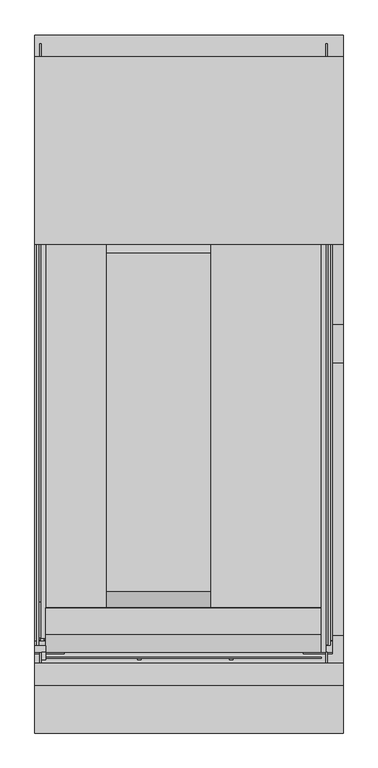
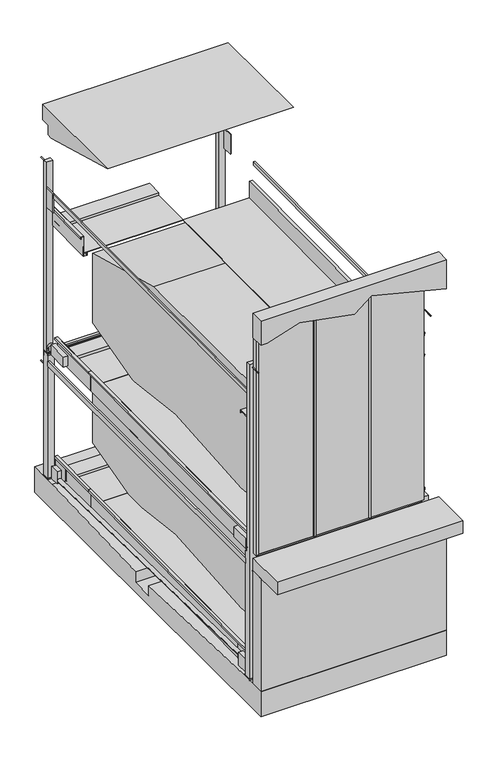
"""IFC4 building model written with IfcOpenShell, lengths in millimetres: proxy geometry, TrendVario_6300 : TrendVario_6300."""

from ifc_helpers import new_model, si_unit, point, frame, frame_2d, origin, origin_with_axes, place, context, project, spatial, polyline, circle_curve, trimmed, segment, composite_curve, outline, extrude, faceted_brep, source, transform, mapped, element, save
from ifc_brep_helpers import plane_surface, cylinder_surface, advanced_brep


def generic_models_decd68fa(model_context):
    return source(origin(), model_context, "Body", "SolidModel", [
        extrude(outline(composite_curve([segment(trimmed(circle_curve(frame_2d((-273.0, 50.2890841)), 6.0), [point((-273.0, 44.2890841))], [point((-273.0, 56.2890841))], False, "CARTESIAN"), True, "CONTINUOUS"), segment(trimmed(circle_curve(frame_2d((-273.0, 50.2890841)), 6.0), [point((-273.0, 56.2890841))], [point((-273.0, 44.2890841))], False, "CARTESIAN"), True, "CONTINUOUS")], self_intersect=False)), frame((0.0, 5472.5930875, 0.0), z_axis=(0.0, 1.0, 0.0), x_axis=(0.0, 0.0, 1.0)), (0.0, 0.0, 1.0), 150.0),
        extrude(outline(composite_curve([segment(trimmed(circle_curve(frame_2d((-273.0, 2650.0)), 6.0), [point((-267.0, 2650.0))], [point((-279.0, 2650.0))], False, "CARTESIAN"), True, "CONTINUOUS"), segment(trimmed(circle_curve(frame_2d((-273.0, 2650.0)), 6.0), [point((-279.0, 2650.0))], [point((-267.0, 2650.0))], False, "CARTESIAN"), True, "CONTINUOUS")], self_intersect=False)), frame((0.0, 5469.6007019, 0.0), z_axis=(0.0, 1.0, 0.0), x_axis=(0.0, 0.0, 1.0)), (0.0, 0.0, 1.0), 150.0),
        extrude(outline(composite_curve([segment(trimmed(circle_curve(frame_2d((-273.0, 2650.0)), 6.0), [point((-267.0, 2650.0))], [point((-279.0, 2650.0))], False, "CARTESIAN"), True, "CONTINUOUS"), segment(trimmed(circle_curve(frame_2d((-273.0, 2650.0)), 6.0), [point((-279.0, 2650.0))], [point((-267.0, 2650.0))], False, "CARTESIAN"), True, "CONTINUOUS")], self_intersect=False)), frame((0.0, -50.0, 0.0), z_axis=(0.0, 1.0, 0.0), x_axis=(0.0, 0.0, 1.0)), (0.0, 0.0, 1.0), 150.0),
        extrude(outline(composite_curve([segment(trimmed(circle_curve(frame_2d((-273.0, 50.0)), 6.0), [point((-273.0, 56.0))], [point((-273.0, 44.0))], False, "CARTESIAN"), True, "CONTINUOUS"), segment(trimmed(circle_curve(frame_2d((-273.0, 50.0)), 6.0), [point((-273.0, 44.0))], [point((-273.0, 56.0))], False, "CARTESIAN"), True, "CONTINUOUS")], self_intersect=False)), frame((0.0, -50.0, 0.0), z_axis=(0.0, 1.0, 0.0), x_axis=(0.0, 0.0, 1.0)), (0.0, 0.0, 1.0), 150.0),
        extrude(outline(composite_curve([segment(trimmed(circle_curve(frame_2d((145.0, 150.0)), 6.0), [point((139.0, 150.0))], [point((151.0, 150.0))], False, "CARTESIAN"), True, "CONTINUOUS"), segment(trimmed(circle_curve(frame_2d((145.0, 150.0)), 6.0), [point((151.0, 150.0))], [point((139.0, 150.0))], False, "CARTESIAN"), True, "CONTINUOUS")], self_intersect=False)), frame((0.0, 0.0, -2150.0), z_axis=(0.0, 0.0, 1.0), x_axis=(1.0, 0.0, 0.0)), (0.0, 0.0, 1.0), 150.0),
        extrude(outline(composite_curve([segment(trimmed(circle_curve(frame_2d((2555.0, 150.0)), 6.0), [point((2549.0, 150.0))], [point((2561.0, 150.0))], False, "CARTESIAN"), True, "CONTINUOUS"), segment(trimmed(circle_curve(frame_2d((2555.0, 150.0)), 6.0), [point((2561.0, 150.0))], [point((2549.0, 150.0))], False, "CARTESIAN"), True, "CONTINUOUS")], self_intersect=False)), frame((0.0, 0.0, -2150.0), z_axis=(0.0, 0.0, 1.0), x_axis=(1.0, 0.0, 0.0)), (0.0, 0.0, 1.0), 150.0),
        extrude(outline(composite_curve([segment(trimmed(circle_curve(frame_2d((2555.0, 5422.5930852)), 6.0), [point((2549.0, 5422.5930852))], [point((2561.0, 5422.5930852))], False, "CARTESIAN"), True, "CONTINUOUS"), segment(trimmed(circle_curve(frame_2d((2555.0, 5422.5930852)), 6.0), [point((2561.0, 5422.5930852))], [point((2549.0, 5422.5930852))], False, "CARTESIAN"), True, "CONTINUOUS")], self_intersect=False)), frame((0.0, 0.0, -2150.0), z_axis=(0.0, 0.0, 1.0), x_axis=(1.0, 0.0, 0.0)), (0.0, 0.0, 1.0), 150.0),
        extrude(outline(polyline([(320.0, 0.0), (3.0, 0.0), (3.0, -49.0), (49.9999999, -49.0), (49.9999999, -89.0), (47.0, -89.0), (47.0, -52.0), (0.0, -52.0), (0.0, 3.0), (317.0, 3.0), (317.0, 40.0), (290.0, 40.0), (290.0, 43.0), (320.0, 43.0), (320.0, 0.0)])), frame((2600.0, 237.7412679, -1960.4094164), z_axis=(0.0, 0.9999619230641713, 0.008726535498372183), x_axis=(0.0, -0.008726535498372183, 0.9999619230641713)), (0.0, 0.0, 1.0), 4178.0),
        extrude(outline(polyline([(1941.867435, 0.0), (1941.867435, -1000.0), (-1962.132565, -1000.0), (-1962.132565, 0.0), (1941.867435, 0.0)])), frame((1600.0, 2473.3523611, -1890.89763), z_axis=(0.0, -0.008726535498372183, 0.9999619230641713), x_axis=(0.0, 0.9999619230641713, 0.008726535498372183)), (0.0, 0.0, 1.0), 8.0),
        extrude(outline(polyline([(0.0, -136.0000001), (0.0, 0.0), (67.0, 0.0), (67.0, -136.0000001), (0.0, -136.0000001)])), frame((20.0, 5291.8106638, -1946.3080138), z_axis=(0.0, -0.008726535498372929, 0.9999619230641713), x_axis=(1.0, 0.0, 0.0)), (0.0, 0.0, 1.0), 195.0),
        extrude(outline(polyline([(5313.4099527, -1671.1090481), (5316.1588114, -1986.0970538), (5181.1639517, -1987.2751361), (5044.9910098, -1853.4583588), (5042.809376, -1603.467878), (5282.8002375, -1601.3735095), (5283.411095, -1671.3708441), (5313.4099527, -1671.1090481)])), frame((87.0, 0.0, 0.0), z_axis=(1.0, 0.0, 0.0), x_axis=(0.0, 1.0, 0.0)), (0.0, 0.0, 1.0), 10.0),
        extrude(outline(polyline([(0.0, -1500.0), (0.0, 0.0), (870.0, 0.0), (870.0, -1500.0), (0.0, -1500.0)])), frame((100.0, 4415.1458963, -1873.955505), z_axis=(0.0, -0.008726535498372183, 0.9999619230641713), x_axis=(0.0, 0.9999619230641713, 0.008726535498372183)), (0.0, 0.0, 1.0), 8.0),
        extrude(outline(polyline([(5046.6680519, -1816.4423146), (5284.6589896, -1814.3653991), (5285.0429571, -1858.3637238), (5282.0430713, -1858.3899034), (5281.6852834, -1817.3914645), (5049.6941172, -1819.4160207), (5050.0519052, -1860.4144596), (5047.0520194, -1860.4406392), (5046.6680519, -1816.4423146)])), frame((100.0, 0.0, 0.0), z_axis=(1.0, 0.0, 0.0), x_axis=(0.0, 1.0, 0.0)), (0.0, 0.0, 1.0), 1500.0),
        extrude(outline(polyline([(320.0, 0.0), (320.0, -43.0), (290.0, -43.0), (290.0, -40.0), (317.0, -40.0), (317.0, -3.0), (0.0, -3.0), (0.0, 52.0), (47.0, 52.0), (47.0, 89.0), (50.0, 89.0), (50.0, 49.0), (3.0, 49.0), (3.0, 0.0), (320.0, 0.0)])), frame((100.0, 4415.5822231, -1923.9536012), z_axis=(0.0, 0.9999619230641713, 0.008726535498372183), x_axis=(0.0, -0.008726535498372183, 0.9999619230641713)), (0.0, 0.0, 1.0), 870.0),
        extrude(outline(polyline([(320.0, 0.0), (3.0, 0.0), (3.0, -49.0), (49.9999999, -49.0), (49.9999999, -89.0), (47.0, -89.0), (47.0, -52.0), (0.0, -52.0), (0.0, 3.0), (317.0, 3.0), (317.0, 40.0), (290.0, 40.0), (290.0, 43.0), (320.0, 43.0), (320.0, 0.0)])), frame((2600.0, 232.7875414, -73.2083418), z_axis=(0.0, 0.9999619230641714, 0.008726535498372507), x_axis=(0.0, -0.008726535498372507, 0.9999619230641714)), (0.0, 0.0, 1.0), 4178.0),
        extrude(outline(polyline([(1941.867435, 0.0), (1941.867435, -1000.0), (-1962.132565, -1000.0), (-1962.132565, 0.0), (1941.867435, 0.0)])), frame((1600.0, 2468.3986345, -3.6965555), z_axis=(0.0, -0.008726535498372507, 0.9999619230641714), x_axis=(0.0, 0.9999619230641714, 0.008726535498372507)), (0.0, 0.0, 1.0), 8.0),
        extrude(outline(polyline([(0.0, -1500.0), (0.0, 0.0), (870.0, 0.0), (870.0, -1500.0), (0.0, -1500.0)])), frame((100.0, 4409.6919355, 13.2448545), z_axis=(0.0, -0.008726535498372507, 0.9999619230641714), x_axis=(0.0, 0.9999619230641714, 0.008726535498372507)), (0.0, 0.0, 1.0), 8.0),
        extrude(outline(polyline([(5041.2140911, 70.758045), (5279.2050288, 72.8349604), (5279.5889963, 28.8366358), (5276.5891105, 28.8104562), (5276.2313226, 69.808895), (5044.2401564, 67.7843388), (5044.5979444, 26.7859), (5041.5980586, 26.7597203), (5041.2140911, 70.758045)])), frame((100.0, 0.0, 0.0), z_axis=(1.0, 0.0, 0.0), x_axis=(0.0, 1.0, 0.0)), (0.0, 0.0, 1.0), 1500.0),
        extrude(outline(polyline([(320.0, 0.0), (320.0, -43.0), (290.0, -43.0), (290.0, -40.0), (317.0, -40.0), (317.0, -3.0), (0.0, -3.0), (0.0, 52.0), (47.0, 52.0), (47.0, 89.0), (49.9999999, 89.0), (49.9999999, 49.0), (2.9999999, 49.0), (2.9999999, 0.0), (320.0, 0.0)])), frame((100.0, 4410.1282623, -36.7532416), z_axis=(0.0, 0.9999619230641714, 0.008726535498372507), x_axis=(0.0, -0.008726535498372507, 0.9999619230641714)), (0.0, 0.0, 1.0), 870.0),
        extrude(outline(composite_curve([segment(trimmed(circle_curve(frame_2d((145.0, 5422.5930852)), 6.0), [point((139.0, 5422.5930852))], [point((151.0, 5422.5930852))], False, "CARTESIAN"), True, "CONTINUOUS"), segment(trimmed(circle_curve(frame_2d((145.0, 5422.5930852)), 6.0), [point((151.0, 5422.5930852))], [point((139.0, 5422.5930852))], False, "CARTESIAN"), True, "CONTINUOUS")], self_intersect=False)), frame((0.0, 0.0, -2150.0), z_axis=(0.0, 0.0, 1.0), x_axis=(1.0, 0.0, 0.0)), (0.0, 0.0, 1.0), 150.0),
        extrude(outline(composite_curve([segment(trimmed(circle_curve(frame_2d((2965.0, 2650.0)), 6.0), [point((2965.0, 2644.0))], [point((2965.0, 2656.0))], False, "CARTESIAN"), True, "CONTINUOUS"), segment(trimmed(circle_curve(frame_2d((2965.0, 2650.0)), 6.0), [point((2965.0, 2656.0))], [point((2965.0, 2644.0))], False, "CARTESIAN"), True, "CONTINUOUS")], self_intersect=False)), frame((0.0, -50.0, 0.0), z_axis=(0.0, 1.0, 0.0), x_axis=(0.0, 0.0, 1.0)), (0.0, 0.0, 1.0), 150.0),
        extrude(outline(composite_curve([segment(trimmed(circle_curve(frame_2d((2965.0, 50.0)), 6.0), [point((2965.0, 44.0))], [point((2965.0, 56.0))], False, "CARTESIAN"), True, "CONTINUOUS"), segment(trimmed(circle_curve(frame_2d((2965.0, 50.0)), 6.0), [point((2965.0, 56.0))], [point((2965.0, 44.0))], False, "CARTESIAN"), True, "CONTINUOUS")], self_intersect=False)), frame((0.0, -50.0, 0.0), z_axis=(0.0, 1.0, 0.0), x_axis=(0.0, 0.0, 1.0)), (0.0, 0.0, 1.0), 150.0),
        extrude(outline(composite_curve([segment(trimmed(circle_curve(frame_2d((2965.0, 50.0)), 6.0), [point((2965.0, 44.0))], [point((2965.0, 56.0))], False, "CARTESIAN"), True, "CONTINUOUS"), segment(trimmed(circle_curve(frame_2d((2965.0, 50.0)), 6.0), [point((2965.0, 56.0))], [point((2965.0, 44.0))], False, "CARTESIAN"), True, "CONTINUOUS")], self_intersect=False)), frame((0.0, 5469.5778576, 0.0), z_axis=(0.0, 1.0, 0.0), x_axis=(0.0, 0.0, 1.0)), (0.0, 0.0, 1.0), 150.0),
        extrude(outline(composite_curve([segment(trimmed(circle_curve(frame_2d((2965.0, 2650.0)), 6.0), [point((2965.0, 2644.0))], [point((2965.0, 2656.0))], False, "CARTESIAN"), True, "CONTINUOUS"), segment(trimmed(circle_curve(frame_2d((2965.0, 2650.0)), 6.0), [point((2965.0, 2656.0))], [point((2965.0, 2644.0))], False, "CARTESIAN"), True, "CONTINUOUS")], self_intersect=False)), frame((0.0, 5469.6007019, 0.0), z_axis=(0.0, 1.0, 0.0), x_axis=(0.0, 0.0, 1.0)), (0.0, 0.0, 1.0), 150.0),
        extrude(outline(polyline([(2133.867435, 0.0), (2133.867435, -1000.0), (-1962.132565, -1000.0), (-1962.132565, 0.0), (2133.867435, 0.0)])), frame((1600.0, 2468.3986345, 2016.3034445), z_axis=(0.0, -0.008726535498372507, 0.9999619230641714), x_axis=(0.0, 0.9999619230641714, 0.008726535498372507)), (0.0, 0.0, 1.0), 8.0),
        extrude(outline(polyline([(0.0, -60.0), (0.0, 0.0), (4430.0, 0.0), (4430.0, -60.0), (0.0, -60.0)])), frame((2611.0, 171.9869847, 2038.264563), z_axis=(0.0, -0.008726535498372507, 0.9999619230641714), x_axis=(0.0, 0.9999619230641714, 0.008726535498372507)), (0.0, 0.0, 1.0), 100.0),
        extrude(outline(polyline([(0.0, -19.0), (0.0, 0.0), (4430.0, 0.0), (4430.0, -19.0), (0.0, -19.0)])), frame((2663.0, 167.9116926, 2505.246781), z_axis=(0.0, -0.008726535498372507, 0.9999619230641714), x_axis=(0.0, 0.9999619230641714, 0.008726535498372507)), (0.0, 0.0, 1.0), 56.0),
        faceted_brep([(2600.0, 4599.8286538, 2304.9144337), (2643.0, 4599.8286538, 2304.9144337), (2643.0, 4600.0904499, 2274.915576), (2640.0, 4600.0904499, 2274.915576), (2640.0, 4599.8548334, 2301.9145479), (2603.0, 4599.8548334, 2301.9145479), (2603.0, 4602.6211451, 1984.9266183), (2548.0, 4602.6211451, 1984.9266183), (2548.0, 4602.210998, 2031.9248287), (2511.0, 4602.210998, 2031.9248287), (2511.0, 4602.1848184, 2034.9247145), (2551.0, 4602.1848184, 2034.9247145), (2551.0, 4602.5949655, 1987.9265041), (2600.0, 4602.5949655, 1987.9265041), (2603.0, 102.7924914, 1945.6572086), (2603.0, 100.0261796, 2262.6451382), (2640.0, 100.0261796, 2262.6451382), (2640.0, 100.2617961, 2235.6461663), (2643.0, 100.2617961, 2235.6461663), (2643.0, 100.0, 2265.645024), (2600.0, 100.0, 2265.645024), (2600.0, 102.7924914, 1945.6572086), (2600.0, 202.7886837, 1946.5298621), (2548.0, 202.7886837, 1946.5298621), (2548.0, 202.3785365, 1993.5280725), (2511.0, 202.3785365, 1993.5280725), (2511.0, 202.3523569, 1996.5279583), (2551.0, 202.3523569, 1996.5279583), (2551.0, 202.7625041, 1949.5297479), (2600.0, 202.7625041, 1949.5297479)], [[[0, 1, 2, 3, 4, 5, 6, 7, 8, 9, 10, 11, 12, 13]], [[14, 15, 16, 17, 18, 19, 20, 21]], [[1, 0, 20, 19]], [[2, 1, 19, 18]], [[3, 2, 18, 17]], [[4, 3, 17, 16]], [[5, 4, 16, 15]], [[6, 5, 15, 14]], [[7, 6, 14, 21, 22, 23]], [[8, 7, 23, 24]], [[9, 8, 24, 25]], [[10, 9, 25, 26]], [[11, 10, 26, 27]], [[12, 11, 27, 28]], [[13, 12, 28, 29]], [[0, 13, 29, 22, 21, 20]], [[22, 29, 28, 27, 26, 25, 24, 23]]]),
        extrude(outline(polyline([(0.0, -1500.0), (0.0, 0.0), (869.9999999, 0.0), (869.9999999, -1500.0), (0.0, -1500.0)])), frame((100.0, 4602.1898877, 2034.9247587), z_axis=(0.0, -0.008726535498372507, 0.9999619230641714), x_axis=(0.0, 0.9999619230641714, 0.008726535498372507)), (0.0, 0.0, 1.0), 8.0),
        extrude(outline(polyline([(5233.7120432, 2092.4379491), (5471.7029809, 2094.5148646), (5472.0869485, 2050.51654), (5469.0870627, 2050.4903604), (5468.7292747, 2091.4887992), (5236.7381086, 2089.464243), (5237.0958965, 2048.4658041), (5234.0960108, 2048.4396245), (5233.7120432, 2092.4379491)])), frame((100.0, 0.0, 0.0), z_axis=(1.0, 0.0, 0.0), x_axis=(0.0, 1.0, 0.0)), (0.0, 0.0, 1.0), 1500.0),
        extrude(outline(polyline([(319.9999999, 0.0), (319.9999999, -43.0), (289.9999999, -43.0), (289.9999999, -40.0), (317.0, -40.0), (317.0, -3.0), (0.0, -3.0), (0.0, 52.0), (46.9999999, 52.0), (46.9999999, 89.0), (49.9999999, 89.0), (49.9999999, 49.0), (2.9999999, 49.0), (2.9999999, 0.0), (319.9999999, 0.0)])), frame((100.0, 4602.6262144, 1984.9266626), z_axis=(0.0, 0.9999619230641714, 0.008726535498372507), x_axis=(0.0, -0.008726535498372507, 0.9999619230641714)), (0.0, 0.0, 1.0), 870.0),
        extrude(outline(polyline([(5699.992384, -2000.0), (5699.992384, -2400.0), (-200.0, -2400.0), (-200.0, -2000.0), (250.0, -2000.0), (2725.0057083, -2086.4291038), (2725.0057083, -2247.5791163), (3075.0057083, -2247.5791163), (3075.0057083, -2075.9522084), (5249.9923858, -2000.0), (5699.992384, -2000.0)])), frame((0.0, 0.0, 0.0), z_axis=(1.0, 0.0, 0.0), x_axis=(0.0, 1.0, 0.0)), (0.0, 0.0, 1.0), 2799.0),
        extrude(outline(polyline([(0.0, 5369.5930875), (30.0, 5369.5930875), (30.0, 200.0), (0.0, 200.0), (0.0, 5369.5930875)])), frame((0.0, 0.0, -200.0), z_axis=(0.0, 0.0, 1.0), x_axis=(1.0, 0.0, 0.0)), (0.0, 0.0, 1.0), 80.0),
        extrude(outline(polyline([(264.0, 210.0), (264.0, 90.0), (0.0, 90.0), (0.0, 210.0), (264.0, 210.0)])), frame((0.0, 0.0, -2000.0), z_axis=(0.0, 0.0, 1.0), x_axis=(1.0, 0.0, 0.0)), (0.0, 0.0, 1.0), 18.0),
        extrude(outline(polyline([(264.0, 5482.5930875), (264.0, 5359.5930875), (0.0, 5359.5930875), (0.0, 5482.5930875), (264.0, 5482.5930875)])), frame((0.0, 0.0, -2000.0), z_axis=(0.0, 0.0, 1.0), x_axis=(1.0, 0.0, 0.0)), (0.0, 0.0, 1.0), 18.0),
        extrude(outline(polyline([(2436.3569556, 5479.6007019), (2700.3569556, 5479.6007019), (2700.3569556, 5359.6007019), (2436.3569556, 5359.6007019), (2436.3569556, 5479.6007019)])), frame((0.0, 0.0, -2000.0), z_axis=(0.0, 0.0, 1.0), x_axis=(1.0, 0.0, 0.0)), (0.0, 0.0, 1.0), 18.0),
        extrude(outline(polyline([(2436.0, 90.0), (2436.0, 210.0), (2700.0, 210.0), (2700.0, 90.0), (2436.0, 90.0)])), frame((0.0, 0.0, -2000.0), z_axis=(0.0, 0.0, 1.0), x_axis=(1.0, 0.0, 0.0)), (0.0, 0.0, 1.0), 18.0),
        extrude(outline(composite_curve([segment(trimmed(circle_curve(frame_2d((-34.8939913, -3.2601796)), 30.0), [point((-64.8939913, -3.2601796))], [point((-4.8939913, -3.2601796))], False, "CARTESIAN"), True, "CONTINUOUS"), segment(trimmed(circle_curve(frame_2d((-34.8939913, -3.2601796)), 30.0), [point((-4.8939913, -3.2601796))], [point((-64.8939913, -3.2601796))], False, "CARTESIAN"), True, "CONTINUOUS")], self_intersect=False)), frame((20.0, 5155.4453642, -1905.0422399), z_axis=(0.0, -0.9997806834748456, 0.02094241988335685), x_axis=(-1.0, 0.0, 0.0)), (0.0, 0.0, 1.0), 4742.7442584),
        extrude(outline(composite_curve([segment(trimmed(circle_curve(frame_2d((39.6709454, 48.2295862)), 30.0), [point((9.6709454, 48.2295862))], [point((69.6709454, 48.2295862))], False, "CARTESIAN"), True, "CONTINUOUS"), segment(trimmed(circle_curve(frame_2d((39.6709454, 48.2295862)), 30.0), [point((69.6709454, 48.2295862))], [point((9.6709454, 48.2295862))], False, "CARTESIAN"), True, "CONTINUOUS")], self_intersect=False)), frame((2603.0, 5155.7604458, -1941.1470144), z_axis=(0.0, -0.9997806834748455, 0.020942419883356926), x_axis=(1.0, 0.0, 0.0)), (0.0, 0.0, 1.0), 4743.0440414),
        faceted_brep([(2670.0, 210.0, -120.0), (2670.0, 210.0, -200.0), (2700.0, 210.0, -200.0), (2700.0, 210.0, -120.0), (2700.0, 5359.6007019, -120.0), (2700.0, 5359.6007019, -200.0), (2673.0, 5359.6007019, -200.0), (2673.0, 5359.6007019, -120.0), (2670.0, 232.7875088, -120.0), (2670.0, 232.7875088, -200.0), (2670.0, 5357.5889979, -120.0), (2670.0, 5336.1530625, -200.0), (2670.0, 254.2234442, -200.0), (2673.0, 232.7875088, -200.0), (2673.0, 254.2234442, -200.0), (2673.0, 5336.1530625, -200.0), (2673.0, 5357.5889979, -120.0), (2673.0, 232.7875088, -120.0)], [[[0, 1, 2, 3]], [[4, 5, 6, 7]], [[1, 0, 8, 9]], [[10, 11, 12, 8]], [[2, 1, 9, 13, 14, 12, 11, 15, 6, 5]], [[3, 2, 5, 4]], [[0, 3, 4, 7, 16, 10, 8]], [[15, 16, 7, 6]], [[16, 15, 11, 10]], [[17, 14, 13]], [[8, 17, 13, 9]], [[17, 8, 12, 14]]]),
        extrude(outline(polyline([(2700.0, 5369.6007019), (2600.0, 5369.6007019), (2600.0, 5469.6007019), (2700.0, 5469.6007019), (2700.0, 5369.6007019)])), frame((0.0, 0.0, -2000.0), z_axis=(0.0, 0.0, 1.0), x_axis=(1.0, 0.0, 0.0)), (0.0, 0.0, 1.0), 2000.0),
        extrude(outline(polyline([(237.7566323, -1940.8501873), (236.1472757, -1756.4361785), (413.7566323, -1756.4361785), (413.7566323, -1939.3142585), (237.7566323, -1940.8501873)])), frame((2613.0, 0.0, 0.0), z_axis=(1.0, 0.0, 0.0), x_axis=(0.0, 1.0, 0.0)), (0.0, 0.0, 1.0), 70.0),
        extrude(outline(polyline([(237.7412679, -1960.4094164), (235.9626972, -1756.6053926), (413.7412679, -1756.6053926), (413.7412679, -1958.8734877), (237.7412679, -1960.4094164)])), frame((20.0, 0.0, 0.0), z_axis=(1.0, 0.0, 0.0), x_axis=(0.0, 1.0, 0.0)), (0.0, 0.0, 1.0), 70.0),
        extrude(outline(polyline([(0.0, -136.0000001), (0.0, 0.0), (67.0, 0.0), (67.0, -136.0000001), (0.0, -136.0000001)])), frame((2610.0, 5291.8106638, -1946.3080138), z_axis=(0.0, -0.008726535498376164, 0.9999619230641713), x_axis=(1.0, 0.0, 0.0)), (0.0, 0.0, 1.0), 195.0),
        extrude(outline(polyline([(2600.0, 200.0), (2700.0, 200.0), (2700.0, 100.0), (2600.0, 100.0), (2600.0, 200.0)])), frame((0.0, 0.0, -2000.0), z_axis=(0.0, 0.0, 1.0), x_axis=(1.0, 0.0, 0.0)), (0.0, 0.0, 1.0), 2000.0),
        extrude(outline(composite_curve([segment(polyline([(5320.048845, -585.9914336), (5320.048845, -1335.9999998), (5318.0564576, -1335.9999998), (5318.0564576, -1608.1402276), (4313.3699728, -1877.3451599)]), True, "CONTINUOUS"), segment(trimmed(circle_curve(frame_2d((4247.6299354, -1632.0)), 254.0), [point((4313.3699728, -1877.3451599))], [point((4224.7221662, -1884.9648871))], False, "CARTESIAN"), True, "CONTINUOUS"), segment(polyline([(4224.7221662, -1884.9648871), (3145.3807126, -1751.0), (1424.180165, -1884.6085614)]), True, "CONTINUOUS"), segment(trimmed(circle_curve(frame_2d((1397.6299354, -1632.0)), 254.0), [point((1424.180165, -1884.6085614))], [point((1340.4923675, -1879.4899965))], False, "CARTESIAN"), True, "CONTINUOUS"), segment(polyline([(1340.4923675, -1879.4899965), (320.456461, -1643.9961518), (320.456461, -689.5033287), (622.3673675, -136.0), (3720.0793025, -135.9999998), (5320.048845, -585.9914336)]), True, "CONTINUOUS")], self_intersect=False)), frame((650.0, 0.0, 0.0), z_axis=(1.0, 0.0, 0.0), x_axis=(0.0, 1.0, 0.0)), (0.0, 0.0, 1.0), 1900.0),
        extrude(outline(polyline([(2799.0, -200.0), (0.0, -200.0), (0.0, 0.0), (2799.0, 0.0), (2799.0, -200.0)])), frame((0.0, 0.0, -2000.0), z_axis=(0.0, 0.0, 1.0), x_axis=(1.0, 0.0, 0.0)), (0.0, 0.0, 1.0), 1800.0),
        faceted_brep([(100.0, 4412.2895056, -1603.966424), (100.0, 4415.0558174, -1920.9543536), (149.0, 4415.0558174, -1920.9543536), (149.0, 4414.6456702, -1873.9561432), (189.0, 4414.6456702, -1873.9561432), (189.0, 4414.6718498, -1876.956029), (152.0, 4414.6718498, -1876.956029), (152.0, 4415.081997, -1923.9542393), (97.0, 4415.081997, -1923.9542393), (97.0, 4412.3156852, -1606.9663097), (60.0, 4412.3156852, -1606.9663097), (60.0, 4412.5513017, -1633.9652817), (57.0, 4412.5513017, -1633.9652817), (57.0, 4412.2895056, -1603.966424), (100.0, 237.741276, -1960.4093395), (100.0, 234.9487847, -1640.4215242), (57.0, 234.9487847, -1640.4215242), (57.0, 235.2105807, -1670.4203818), (60.0, 235.2105807, -1670.4203818), (60.0, 234.9749643, -1643.4214099), (97.0, 234.9749643, -1643.4214099), (97.0, 237.741276, -1960.4093395), (100.0, 337.7374683, -1959.536686), (100.0, 337.7112887, -1956.5368002), (149.0, 337.7112887, -1956.5368002), (149.0, 337.3011416, -1909.5385898), (189.0, 337.3011416, -1909.5385898), (189.0, 337.3273212, -1912.5384756), (152.0, 337.3273212, -1912.5384756), (152.0, 337.7374683, -1959.536686)], [[[0, 1, 2, 3, 4, 5, 6, 7, 8, 9, 10, 11, 12, 13]], [[14, 15, 16, 17, 18, 19, 20, 21]], [[1, 0, 15, 14, 22, 23]], [[2, 1, 23, 24]], [[3, 2, 24, 25]], [[4, 3, 25, 26]], [[5, 4, 26, 27]], [[6, 5, 27, 28]], [[7, 6, 28, 29]], [[8, 7, 29, 22, 14, 21]], [[9, 8, 21, 20]], [[10, 9, 20, 19]], [[11, 10, 19, 18]], [[12, 11, 18, 17]], [[13, 12, 17, 16]], [[0, 13, 16, 15]], [[23, 22, 29, 28, 27, 26, 25, 24]]]),
        extrude(outline(polyline([(556.8174373, -1957.6248809), (237.7412679, -1960.4094164), (235.9626972, -1756.6053926), (322.913076, -1669.6550138), (556.8174373, -1667.6137613), (556.8174373, -1957.6248809)])), frame((90.0, 0.0, 0.0), z_axis=(1.0, 0.0, 0.0), x_axis=(0.0, 1.0, 0.0)), (0.0, 0.0, 1.0), 10.0),
        extrude(outline(polyline([(342.6444987, -1649.9235911), (556.8174373, -1648.0545322), (556.8174373, -1938.0656517), (237.7412679, -1940.8501873), (236.1319113, -1756.4361785), (342.6444987, -1649.9235911)])), frame((2603.0, 0.0, 0.0), z_axis=(1.0, 0.0, 0.0), x_axis=(0.0, 1.0, 0.0)), (0.0, 0.0, 1.0), 10.0),
        extrude(outline(polyline([(5282.7827844, -1599.3735857), (5283.411095, -1671.3708441), (5313.4099527, -1671.1090481), (5316.1588114, -1986.0970538), (5181.1639517, -1987.2751361), (5044.9910098, -1853.4583588), (5042.7919229, -1601.4679542), (5282.7827844, -1599.3735857)])), frame((2600.0, 0.0, 0.0), z_axis=(1.0, 0.0, 0.0), x_axis=(0.0, 1.0, 0.0)), (0.0, 0.0, 1.0), 10.0),
        extrude(outline(polyline([(2600.0, 511.2945081), (2600.0, 241.2945081), (100.0, 241.2945081), (100.0, 511.2945081), (2600.0, 511.2945081)])), frame((0.0, 0.0, -1888.4610204), z_axis=(0.0, 0.0, 1.0), x_axis=(1.0, 0.0, 0.0)), (0.0, 0.0, 1.0), 30.0),
        extrude(outline(polyline([(319.9999232, -43.0), (2.9999232, -43.0), (2.9999232, -92.0), (49.9999231, -92.0), (49.9999231, -132.0), (46.9999232, -132.0), (46.9999232, -95.0), (-7.68e-05, -95.0), (-7.68e-05, -40.0), (316.9999232, -40.0), (316.9999232, -3.0), (289.9999232, -3.0), (289.9999232, 0.0), (319.9999232, 0.0), (319.9999232, -43.0)])), frame((2643.0, 4415.5821906, -1923.9498742), z_axis=(0.0, 0.9999619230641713, 0.008726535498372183), x_axis=(0.0, -0.008726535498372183, 0.9999619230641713)), (0.0, 0.0, 1.0), 881.0149678),
        extrude(outline(polyline([(100.4126792, 0.0), (100.4126792, -870.5002127), (-899.5873208, -870.5002127), (-899.5873208, 0.0), (100.4126792, 0.0)])), frame((2499.5873208, 5285.1127694, -1866.3634191), z_axis=(0.0, -0.008726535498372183, 0.9999619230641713), x_axis=(1.0, 0.0, 0.0)), (0.0, 0.0, 1.0), 8.0),
        extrude(outline(polyline([(5287.3947785, -1814.337797), (5287.7787461, -1858.3361216), (5284.7788603, -1858.3623013), (5284.4210724, -1817.3638624), (5052.4299062, -1819.3884186), (5052.7876942, -1860.3868575), (5049.7878084, -1860.4130371), (5049.4038408, -1816.4147125), (5287.3947785, -1814.337797)])), frame((1600.0, 0.0, 0.0), z_axis=(1.0, 0.0, 0.0), x_axis=(0.0, 1.0, 0.0)), (0.0, 0.0, 1.0), 1000.0),
        extrude(outline(polyline([(2038.9337722, 0.0), (2038.9337722, -1500.0), (-1864.3763713, -1500.0), (-1864.3763713, 0.0), (2038.9337722, 0.0)])), frame((1600.0, 2550.3403211, -1890.2294167), z_axis=(0.0, -0.008726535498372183, 0.9999619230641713), x_axis=(0.0, -0.9999619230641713, -0.008726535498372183)), (0.0, 0.0, 1.0), 8.0),
        extrude(outline(polyline([(555.3027268, 0.3516465), (235.3027268, -2.4409511), (235.3027268, 157.5651414), (555.3027268, 160.3577391), (555.3027268, 0.3516465)])), frame((30.0, 0.0, 0.0), z_axis=(1.0, 0.0, 0.0), x_axis=(0.0, 1.0, 0.0)), (0.0, 0.0, 1.0), 70.0),
        extrude(outline(polyline([(5327.0564576, 0.3516465), (5007.0564576, -2.4409511), (5007.0564576, 157.5651414), (5327.0564576, 160.3577391), (5327.0564576, 0.3516465)])), frame((30.0, 0.0, 0.0), z_axis=(1.0, 0.0, 0.0), x_axis=(0.0, 1.0, 0.0)), (0.0, 0.0, 1.0), 70.0),
        extrude(outline(composite_curve([segment(trimmed(circle_curve(frame_2d((73.3516465, 66.0)), 50.0), [point((73.3516465, 16.0))], [point((73.3516465, 116.0))], False, "CARTESIAN"), True, "CONTINUOUS"), segment(trimmed(circle_curve(frame_2d((73.3516465, 66.0)), 50.0), [point((73.3516465, 116.0))], [point((73.3516465, 16.0))], False, "CARTESIAN"), True, "CONTINUOUS")], self_intersect=False)), frame((0.0, 165.3027268, 0.0), z_axis=(0.0, 1.0, 0.0), x_axis=(0.0, 0.0, 1.0)), (0.0, 0.0, 1.0), 35.0),
        extrude(outline(composite_curve([segment(trimmed(circle_curve(frame_2d((73.3516465, 66.0)), 15.0), [point((73.3516465, 51.0))], [point((73.3516465, 81.0))], False, "CARTESIAN"), True, "CONTINUOUS"), segment(trimmed(circle_curve(frame_2d((73.3516465, 66.0)), 15.0), [point((73.3516465, 81.0))], [point((73.3516465, 51.0))], False, "CARTESIAN"), True, "CONTINUOUS")], self_intersect=False)), frame((0.0, 200.3027268, 0.0), z_axis=(0.0, 1.0, 0.0), x_axis=(0.0, 0.0, 1.0)), (0.0, 0.0, 1.0), 35.0),
        extrude(outline(composite_curve([segment(trimmed(circle_curve(frame_2d((73.3516465, 66.0)), 50.0), [point((73.3516465, 16.0))], [point((73.3516465, 116.0))], False, "CARTESIAN"), True, "CONTINUOUS"), segment(trimmed(circle_curve(frame_2d((73.3516465, 66.0)), 50.0), [point((73.3516465, 116.0))], [point((73.3516465, 16.0))], False, "CARTESIAN"), True, "CONTINUOUS")], self_intersect=False)), frame((0.0, 5372.0564576, 0.0), z_axis=(0.0, 1.0, 0.0), x_axis=(0.0, 0.0, 1.0)), (0.0, 0.0, 1.0), 35.0),
        extrude(outline(composite_curve([segment(trimmed(circle_curve(frame_2d((73.3516465, 66.0)), 15.0), [point((73.3516465, 51.0))], [point((73.3516465, 81.0))], False, "CARTESIAN"), True, "CONTINUOUS"), segment(trimmed(circle_curve(frame_2d((73.3516465, 66.0)), 15.0), [point((73.3516465, 81.0))], [point((73.3516465, 51.0))], False, "CARTESIAN"), True, "CONTINUOUS")], self_intersect=False)), frame((0.0, 5327.0564576, 0.0), z_axis=(0.0, 1.0, 0.0), x_axis=(0.0, 0.0, 1.0)), (0.0, 0.0, 1.0), 45.0),
        faceted_brep([(100.0, 4407.3357384, 283.2383007), (100.0, 4410.1020502, -33.7496289), (149.0, 4410.1020502, -33.7496289), (149.0, 4409.691903, 13.2485815), (189.0, 4409.691903, 13.2485815), (189.0, 4409.7180826, 10.2486957), (152.0, 4409.7180826, 10.2486957), (152.0, 4410.1282298, -36.7495147), (97.0, 4410.1282298, -36.7495147), (97.0, 4407.361918, 280.2384149), (60.0, 4407.361918, 280.2384149), (60.0, 4407.5975345, 253.239443), (57.0, 4407.5975345, 253.239443), (57.0, 4407.3357384, 283.2383007), (100.0, 232.7875088, -73.2046149), (100.0, 229.9950175, 246.7832005), (57.0, 229.9950175, 246.7832005), (57.0, 230.2568135, 216.7843428), (60.0, 230.2568135, 216.7843428), (60.0, 230.0211971, 243.7833147), (97.0, 230.0211971, 243.7833147), (97.0, 232.7875088, -73.2046149), (100.0, 332.7837011, -72.3319613), (100.0, 332.7575215, -69.3320755), (149.0, 332.7575215, -69.3320755), (149.0, 332.3473744, -22.3338652), (189.0, 332.3473744, -22.3338652), (189.0, 332.373554, -25.3337509), (152.0, 332.373554, -25.3337509), (152.0, 332.7837011, -72.3319613)], [[[0, 1, 2, 3, 4, 5, 6, 7, 8, 9, 10, 11, 12, 13]], [[14, 15, 16, 17, 18, 19, 20, 21]], [[1, 0, 15, 14, 22, 23]], [[2, 1, 23, 24]], [[3, 2, 24, 25]], [[4, 3, 25, 26]], [[5, 4, 26, 27]], [[6, 5, 27, 28]], [[7, 6, 28, 29]], [[8, 7, 29, 22, 14, 21]], [[9, 8, 21, 20]], [[10, 9, 20, 19]], [[11, 10, 19, 18]], [[12, 11, 18, 17]], [[13, 12, 17, 16]], [[0, 13, 16, 15]], [[23, 22, 29, 28, 27, 26, 25, 24]]]),
        extrude(outline(polyline([(555.3027268, 0.3516465), (235.3027268, -2.4409511), (235.3027268, 157.5651414), (555.3027268, 160.3577391), (555.3027268, 0.3516465)])), frame((2600.0, 0.0, 0.0), z_axis=(1.0, 0.0, 0.0), x_axis=(0.0, 1.0, 0.0)), (0.0, 0.0, 1.0), 70.0),
        extrude(outline(composite_curve([segment(trimmed(circle_curve(frame_2d((73.3516465, 2635.0)), 50.0), [point((73.3516465, 2685.0))], [point((73.3516465, 2585.0))], False, "CARTESIAN"), True, "CONTINUOUS"), segment(trimmed(circle_curve(frame_2d((73.3516465, 2635.0)), 50.0), [point((73.3516465, 2585.0))], [point((73.3516465, 2685.0))], False, "CARTESIAN"), True, "CONTINUOUS")], self_intersect=False)), frame((0.0, 165.3027268, 0.0), z_axis=(0.0, 1.0, 0.0), x_axis=(0.0, 0.0, 1.0)), (0.0, 0.0, 1.0), 35.0),
        extrude(outline(composite_curve([segment(trimmed(circle_curve(frame_2d((73.3516465, 2635.0)), 15.0), [point((73.3516465, 2650.0))], [point((73.3516465, 2620.0))], False, "CARTESIAN"), True, "CONTINUOUS"), segment(trimmed(circle_curve(frame_2d((73.3516465, 2635.0)), 15.0), [point((73.3516465, 2620.0))], [point((73.3516465, 2650.0))], False, "CARTESIAN"), True, "CONTINUOUS")], self_intersect=False)), frame((0.0, 200.3027268, 0.0), z_axis=(0.0, 1.0, 0.0), x_axis=(0.0, 0.0, 1.0)), (0.0, 0.0, 1.0), 35.0),
        extrude(outline(polyline([(0.0, 5377.3954888), (0.0, 5402.3954888), (2799.0, 5402.3954888), (2799.0, 5377.3954888), (0.0, 5377.3954888)])), frame((0.0, 0.0, 8.0), z_axis=(0.0, 0.0, 1.0), x_axis=(1.0, 0.0, 0.0)), (0.0, 0.0, 1.0), 15.0),
        extrude(outline(polyline([(5472.5930893, 0.0), (5472.5930893, -80.0), (5469.5930893, -80.0), (5469.5930893, -3.0), (5369.5930893, -3.0), (5369.5930893, -30.0), (5366.5930893, -30.0), (5366.5930893, 0.0), (5472.5930893, 0.0)])), frame((0.0, 0.0, 0.0), z_axis=(1.0, 0.0, 0.0), x_axis=(0.0, 1.0, 0.0)), (0.0, 0.0, 1.0), 2799.0),
        extrude(outline(composite_curve([segment(trimmed(circle_curve(frame_2d((73.3516465, 2635.0)), 50.0), [point((73.3516465, 2685.0))], [point((73.3516465, 2585.0))], False, "CARTESIAN"), True, "CONTINUOUS"), segment(trimmed(circle_curve(frame_2d((73.3516465, 2635.0)), 50.0), [point((73.3516465, 2585.0))], [point((73.3516465, 2685.0))], False, "CARTESIAN"), True, "CONTINUOUS")], self_intersect=False)), frame((0.0, 5372.0564576, 0.0), z_axis=(0.0, 1.0, 0.0), x_axis=(0.0, 0.0, 1.0)), (0.0, 0.0, 1.0), 35.0),
        extrude(outline(composite_curve([segment(trimmed(circle_curve(frame_2d((73.3516465, 2635.0)), 15.0), [point((73.3516465, 2650.0))], [point((73.3516465, 2620.0))], False, "CARTESIAN"), True, "CONTINUOUS"), segment(trimmed(circle_curve(frame_2d((73.3516465, 2635.0)), 15.0), [point((73.3516465, 2620.0))], [point((73.3516465, 2650.0))], False, "CARTESIAN"), True, "CONTINUOUS")], self_intersect=False)), frame((0.0, 5327.0564576, 0.0), z_axis=(0.0, 1.0, 0.0), x_axis=(0.0, 0.0, 1.0)), (0.0, 0.0, 1.0), 45.0),
        extrude(outline(polyline([(100.0, 32.0), (60.0, 32.0), (60.0, 100.0), (100.0, 100.0), (100.0, 32.0)])), origin_with_axes(), (0.0, 0.0, 1.0), 3526.0),
        extrude(outline(polyline([(506.3333687, 2021.7621074), (506.6824301, 1981.7636305), (503.6825444, 1981.7374509), (503.3596625, 2018.736042), (261.7372106, 2016.6274348), (105.9840281, 1973.4332545), (112.3977491, 1950.3061236), (133.5976191, 1956.1853679), (134.3993342, 1953.2944765), (110.3085729, 1946.6135171), (102.2914216, 1975.5224307), (261.3160886, 2019.623874), (506.3333687, 2021.7621074)])), frame((100.0, 0.0, 0.0), z_axis=(1.0, 0.0, 0.0), x_axis=(0.0, 1.0, 0.0)), (0.0, 0.0, 1.0), 2500.0),
        extrude(outline(polyline([(5327.0564576, 0.3516465), (5007.0564576, -2.4409511), (5007.0564576, 157.5651414), (5327.0564576, 160.3577391), (5327.0564576, 0.3516465)])), frame((2600.0, 0.0, 0.0), z_axis=(1.0, 0.0, 0.0), x_axis=(0.0, 1.0, 0.0)), (0.0, 0.0, 1.0), 70.0),
        extrude(outline(polyline([(506.3333687, 1.7621074), (506.6824301, -38.2363695), (503.6825444, -38.2625491), (503.3596625, -1.263958), (261.7372106, -3.3725652), (105.9840281, -46.5667455), (112.3977491, -69.6938764), (133.5976191, -63.8146321), (134.3993342, -66.7055235), (110.3085729, -73.3864829), (102.2914216, -44.4775693), (261.3160886, -0.376126), (506.3333687, 1.7621074)])), frame((100.0, 0.0, 0.0), z_axis=(1.0, 0.0, 0.0), x_axis=(0.0, 1.0, 0.0)), (0.0, 0.0, 1.0), 2500.0),
        extrude(outline(polyline([(319.9719043, 0.0), (2.9719044, 0.0), (2.9719044, -49.0), (49.9719044, -49.0), (49.9719044, -89.0), (46.9719043, -89.0), (46.9719043, -52.0), (-0.0280957, -52.0), (-0.0280957, 3.0), (316.9719043, 3.0), (316.9719043, 40.0), (289.9719043, 40.0), (289.9719043, 43.0), (319.9719043, 43.0), (319.9719043, 0.0)])), frame((2600.0, 4410.6284234, -36.7451495), z_axis=(0.0, 0.9999619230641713, 0.008726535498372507), x_axis=(0.0, -0.008726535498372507, 0.9999619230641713)), (0.0, 0.0, 1.0), 869.4997873),
        extrude(outline(polyline([(100.4126792, 0.0), (100.4126792, -867.2336149), (-899.5873208, -867.2336149), (-899.5873208, 0.0), (100.4126792, 0.0)])), frame((2499.5873208, 5276.8925288, 20.8127995), z_axis=(0.0, -0.008726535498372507, 0.9999619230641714), x_axis=(1.0, 0.0, 0.0)), (0.0, 0.0, 1.0), 8.0),
        extrude(outline(polyline([(5279.1745379, 72.8384216), (5279.5585055, 28.8400969), (5276.5586197, 28.8139173), (5276.2008318, 69.8123562), (5044.2096656, 67.7877999), (5044.5674536, 26.7893611), (5041.5675678, 26.7631815), (5041.1836002, 70.7615061), (5279.1745379, 72.8384216)])), frame((1600.0, 0.0, 0.0), z_axis=(1.0, 0.0, 0.0), x_axis=(0.0, 1.0, 0.0)), (0.0, 0.0, 1.0), 1000.0),
        extrude(outline(polyline([(2038.9337722, 0.0), (2038.9337722, -1500.0), (-1864.3763713, -1500.0), (-1864.3763713, 0.0), (2038.9337722, 0.0)])), frame((1600.0, 2545.3865539, -3.0246921), z_axis=(0.0, -0.008726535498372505, 0.9999619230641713), x_axis=(0.0, -0.9999619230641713, -0.008726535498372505)), (0.0, 0.0, 1.0), 8.0),
        extrude(outline(polyline([(0.0, -630.5625149), (0.0, 0.0), (2799.0, 0.0), (2799.0, -630.5625149), (0.0, -630.5625149)])), frame((0.0, 0.0, -200.0), z_axis=(0.0, 0.0, 1.0), x_axis=(1.0, 0.0, 0.0)), (0.0, 0.0, 1.0), 200.0),
        extrude(outline(polyline([(200.0, -2000.0), (100.0, -2000.0), (100.0, 3025.0), (160.0, 3025.0), (160.0, 8.0), (200.0, 8.0), (200.0, -2000.0)])), frame((0.0, 0.0, 0.0), z_axis=(1.0, 0.0, 0.0), x_axis=(0.0, 1.0, 0.0)), (0.0, 0.0, 1.0), 100.0),
        faceted_brep([(0.0, 5349.9847702, 3650.0), (2799.0, 5349.9847702, 3650.0), (2799.0, 5349.9847702, 3500.0), (0.0, 5349.9847702, 3500.0), (0.0, 5499.9619265, 3650.0), (2799.0, 5499.9619265, 3650.0), (2799.0, 5267.6782592, 3500.0), (2799.0, 3799.963506, 3900.0057953), (0.0, 3799.9847702, 3900.0), (0.0, 5267.6782592, 3500.0), (2799.0, 5499.9619265, 3900.0), (0.0, 5499.9619265, 3900.0)], [[[0, 1, 2, 3]], [[1, 0, 4, 5]], [[6, 7, 8, 9]], [[10, 7, 6, 2, 1, 5]], [[8, 11, 4, 0, 3, 9]], [[11, 10, 5, 4]], [[7, 10, 11, 8]], [[2, 6, 9, 3]]]),
        extrude(outline(polyline([(3511.8273555, 0.0), (3511.8273555, 90.0080034), (3672.5161926, 584.5573919), (3511.8273555, 1411.229794), (3719.8801857, 1665.5456754), (3437.2782827, 2799.0), (3900.0, 2799.0), (3900.0, 0.0), (3511.8273555, 0.0)])), frame((0.0, -200.0, 0.0), z_axis=(0.0, 1.0, 0.0), x_axis=(0.0, 0.0, 1.0)), (0.0, 0.0, 1.0), 200.0),
        extrude(outline(polyline([(100.0, 45.0), (100.0, 55.0), (2600.0, 55.0), (2600.0, 45.0), (100.0, 45.0)])), origin_with_axes(), (0.0, 0.0, 1.0), 3526.0),
        extrude(outline(polyline([(1798.6666667, 44.0), (1798.6666667, 35.0), (1768.6666667, 35.0), (1768.6666667, 44.0), (1798.6666667, 44.0)])), origin_with_axes(), (0.0, 0.0, 1.0), 3526.0),
        extrude(outline(polyline([(964.3333333, 44.0), (964.3333333, 35.0), (934.3333333, 35.0), (934.3333333, 44.0), (964.3333333, 44.0)])), origin_with_axes(), (0.0, 0.0, 1.0), 3526.0),
        extrude(outline(polyline([(0.0, -19.0), (0.0, 0.0), (5247.1058324, 0.0), (5247.1058324, -19.0), (0.0, -19.0)])), frame((37.0, 5402.750815, 2550.93053), z_axis=(0.0, -0.008726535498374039, 0.9999619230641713), x_axis=(0.0, -0.9999619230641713, -0.008726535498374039)), (0.0, 0.0, 1.0), 56.0),
        extrude(outline(polyline([(18.0, 5242.5930875), (7.0, 5242.5930875), (7.0, 5412.5930875), (18.0, 5412.5930875), (18.0, 5242.5930875)])), frame((0.0, 0.0, 2319.0), z_axis=(0.0, 0.0, 1.0), x_axis=(1.0, 0.0, 0.0)), (0.0, 0.0, 1.0), 310.0),
        extrude(outline(polyline([(2682.0, 5242.0564576), (2682.0, 5412.0564576), (2693.0, 5412.0564576), (2693.0, 5242.0564576), (2682.0, 5242.0564576)])), frame((0.0, 0.0, 2319.0), z_axis=(0.0, 0.0, 1.0), x_axis=(1.0, 0.0, 0.0)), (0.0, 0.0, 1.0), 310.0),
        extrude(outline(polyline([(5410.0564576, 3025.0), (5469.6007019, 3025.0), (5469.6007019, 0.0), (5412.0564576, 0.0), (5412.0564576, 8.0), (5410.0564576, 8.0), (5410.0564576, 3025.0)])), frame((2600.0, 0.0, 0.0), z_axis=(1.0, 0.0, 0.0), x_axis=(0.0, 1.0, 0.0)), (0.0, 0.0, 1.0), 100.0),
        extrude(outline(polyline([(5472.5930875, -2000.0), (5369.5930875, -2000.0), (5369.5930875, 8.0), (5409.5930875, 8.0), (5409.5930875, 3025.0), (5469.5930875, 3025.0), (5469.5930875, 0.0), (5472.5930875, 0.0), (5472.5930875, -2000.0)])), frame((0.0, 0.0, 0.0), z_axis=(1.0, 0.0, 0.0), x_axis=(0.0, 1.0, 0.0)), (0.0, 0.0, 1.0), 100.0),
        advanced_brep(
        [(650.0, 5320.048845, 302.393631), (650.0, 4313.3699728, 32.6548401), (650.0, 4224.7221662, 25.0351129), (650.0, 3145.3807126, 159.0), (650.0, 1424.180165, 25.3914386), (650.0, 1340.4923675, 30.5100035), (650.0, 320.456461, 266.0038482), (650.0, 320.456461, 1235.4966713), (650.0, 649.6400948, 1839.0), (650.0, 3720.0713452, 1839.0000002), (650.0, 5320.0488473, 1402.9477825), (2550.0, 320.456461, 266.0038482), (2550.0, 1340.4923675, 30.5100035), (2550.0, 1424.180165, 25.3914386), (2550.0, 3145.3807126, 159.0), (2550.0, 4224.7221662, 25.0351129), (2550.0, 4313.3699728, 32.6548401), (2550.0, 5320.048845, 302.393631), (2550.0, 5320.0488473, 1402.9477825), (2550.0, 3720.0713452, 1839.0000002), (2550.0, 649.6400948, 1839.0), (2550.0, 320.456461, 1235.4966713)],
        [
            (0, 1),
            (1, 2, circle_curve(frame((650.0, 4247.6299354, 278.0), z_axis=(-1.0, 0.0, 0.0), x_axis=(0.0, 1.0, 0.0)), 254.0)),
            (2, 3),
            (3, 4),
            (4, 5, circle_curve(frame((650.0, 1397.6299354, 278.0), z_axis=(-1.0, 0.0, 0.0), x_axis=(0.0, 1.0, 0.0)), 254.0)),
            (5, 6),
            (6, 7),
            (7, 8),
            (8, 9),
            (9, 10),
            (10, 0),
            (11, 12),
            (12, 13, circle_curve(frame((2550.0, 1397.6299354, 278.0), z_axis=(1.0, 0.0, 0.0), x_axis=(0.0, 1.0, 0.0)), 254.0)),
            (13, 14),
            (14, 15),
            (15, 16, circle_curve(frame((2550.0, 4247.6299354, 278.0), z_axis=(1.0, 0.0, 0.0), x_axis=(0.0, 1.0, 0.0)), 254.0)),
            (16, 17),
            (17, 18),
            (18, 19),
            (19, 20),
            (20, 21),
            (21, 11),
            (17, 0),
            (10, 18),
            (16, 1),
            (15, 2),
            (14, 3),
            (13, 4),
            (12, 5),
            (11, 6),
            (21, 7),
            (19, 9),
            (8, 20),
        ],
        [
            plane_surface(frame((650.0, 220.4923675, 0.0), z_axis=(-1.0, 0.0, 0.0), x_axis=(0.0, 0.0, 1.0))),
            plane_surface(frame((2550.0, 220.4923675, 0.0), z_axis=(1.0, 0.0, 0.0), x_axis=(0.0, 0.0, 1.0))),
            plane_surface(frame((650.0, 5320.048845, 1017.7607082), z_axis=(0.0, 1.0, 0.0), x_axis=(1.0, 0.0, 0.0))),
            plane_surface(frame((650.0, 5320.048845, 302.393631), z_axis=(0.0, 0.25881904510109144, -0.9659258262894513), x_axis=(1.0, 0.0, 0.0))),
            cylinder_surface(frame((650.0, 4247.6299354, 278.0), z_axis=(-1.0, 0.0, 0.0), x_axis=(0.0, 1.0, 0.0)), 254.0),
            plane_surface(frame((650.0, 4224.7221662, 25.0351129), z_axis=(0.0, -0.12317213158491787, -0.992385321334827), x_axis=(1.0, 0.0, 0.0))),
            plane_surface(frame((650.0, 3145.3807126, 159.0), z_axis=(0.0, 0.07739239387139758, -0.9970007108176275), x_axis=(1.0, 0.0, 0.0))),
            cylinder_surface(frame((650.0, 1397.6299354, 278.0), z_axis=(-1.0, 0.0, 0.0), x_axis=(0.0, 1.0, 0.0)), 254.0),
            plane_surface(frame((650.0, 1340.4923675, 30.5100035), z_axis=(0.0, -0.22495105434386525, -0.9743700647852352), x_axis=(1.0, 0.0, 0.0))),
            plane_surface(frame((650.0, 320.456461, 266.0038482), z_axis=(0.0, -1.0, 0.0), x_axis=(1.0, 0.0, 0.0))),
            plane_surface(frame((650.0, 876.9052084, 1839.0000002), z_axis=(0.0, 0.0, 1.0), x_axis=(1.0, 0.0, 0.0))),
            plane_surface(frame((650.0, 320.456461, 1235.4966713), z_axis=(0.0, -0.8778955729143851, 0.478852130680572), x_axis=(1.0, 0.0, 0.0))),
            plane_surface(frame((650.0, 3720.0713452, 1839.0000002), z_axis=(0.0, 0.26294605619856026, 0.9648105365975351), x_axis=(1.0, 0.0, 0.0))),
        ],
        [
            (0, [[1, 2, 3, 4, 5, 6, 7, 8, 9, 10, 11]]),
            (1, [[12, 13, 14, 15, 16, 17, 18, 19, 20, 21, 22]]),
            (2, [[23, -11, 24, -18]]),
            (3, [[-1, -23, -17, 25]]),
            (4, [[-2, -25, -16, 26]]),
            (5, [[-3, -26, -15, 27]]),
            (6, [[-4, -27, -14, 28]]),
            (7, [[-5, -28, -13, 29]]),
            (8, [[-6, -29, -12, 30]]),
            (9, [[-7, -30, -22, 31]]),
            (10, [[-20, 32, -9, 33]]),
            (11, [[-8, -31, -21, -33]]),
            (12, [[-10, -32, -19, -24]]),
        ],
    ),
    ])


if __name__ == "__main__":
    model = new_model("IFC4")
    model_context = context("Model", 3, world=origin())
    ifc_project = project(units=[si_unit("LENGTHUNIT", "METRE", prefix="MILLI")], contexts=[model_context])
    site = spatial("IfcSite", under=ifc_project)
    building = spatial("IfcBuilding", under=site)
    placement = place(None, origin())
    generic_models_shape = generic_models_decd68fa(model_context)
    element("IfcBuildingElementProxy", 1, Name="TrendVario_6300 : TrendVario_6300", ObjectType="TrendVario_6300 : TrendVario_6300", at=placement, inside=building, context=model_context, shape_type="MappedRepresentation", body=[
        mapped(generic_models_shape, transform((0.0, 0.0, 0.0), x_axis=(1.0, 0.0, 0.0), y_axis=(0.0, 1.0, 0.0), z_axis=(0.0, 0.0, 1.0))),
    ])
    save(model, "model.ifc")
